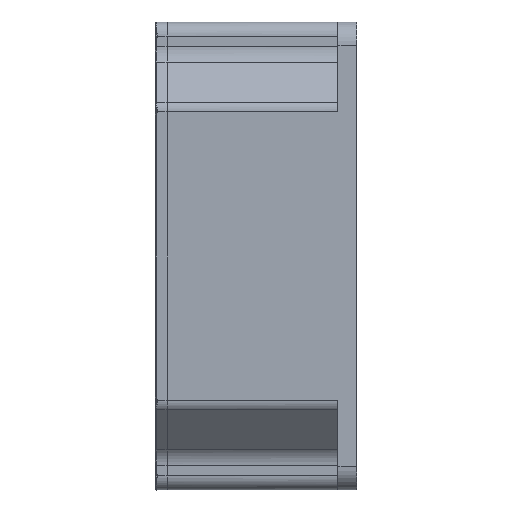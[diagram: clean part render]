
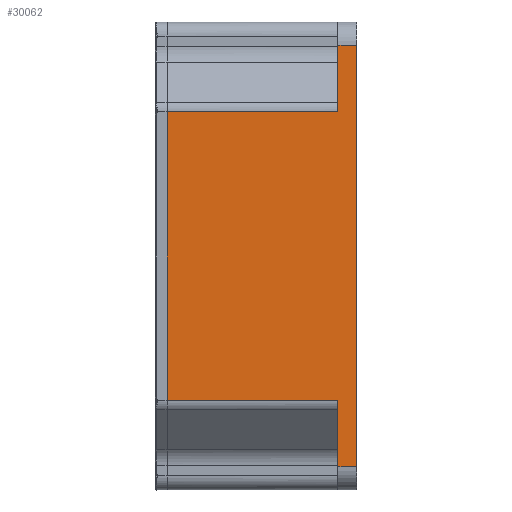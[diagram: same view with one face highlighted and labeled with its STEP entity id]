
A CAD part, left-side view. The second image highlights one B-rep face of the part: STEP entity #30062.
In plain terms, the highlighted planar face has unit normal (-1, 0, 0).
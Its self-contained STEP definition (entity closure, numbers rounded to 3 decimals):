
#1605 = LINE ( 'NONE', #1606, #25439 ) ;
#1606 = CARTESIAN_POINT ( 'NONE',  ( -58.5, -40.5, 45. ) ) ;
#1607 = DIRECTION ( 'NONE',  ( 0., 1., 0. ) ) ;
#1608 = LINE ( 'NONE', #1609, #25436 ) ;
#1609 = CARTESIAN_POINT ( 'NONE',  ( -58.5, -40.5, -50. ) ) ;
#3073 = LINE ( 'NONE', #3077, #26999 ) ;
#3077 = CARTESIAN_POINT ( 'NONE',  ( -58.5, 0., 50. ) ) ;
#3079 = DIRECTION ( 'NONE',  ( 0., 0., -1. ) ) ;
#5118 = VERTEX_POINT ( 'NONE', #18743 ) ;
#5119 = VERTEX_POINT ( 'NONE', #18746 ) ;
#8913 = EDGE_CURVE ( 'NONE', #18975, #18980, #3073, .T. ) ;
#9078 = EDGE_CURVE ( 'NONE', #19001, #18985, #11575, .T. ) ;
#9092 = EDGE_CURVE ( 'NONE', #18985, #18975, #11727, .T. ) ;
#9100 = EDGE_CURVE ( 'NONE', #18980, #18988, #11748, .T. ) ;
#9108 = EDGE_CURVE ( 'NONE', #18988, #18973, #11769, .T. ) ;
#9505 = AXIS2_PLACEMENT_3D ( 'NONE', #15084, #15105, #15107 ) ;
#11575 = LINE ( 'NONE', #11579, #26884 ) ;
#11579 = CARTESIAN_POINT ( 'NONE',  ( -58.5, -36.5, 50. ) ) ;
#11582 = DIRECTION ( 'NONE',  ( 0., 0., -1. ) ) ;
#11727 = LINE ( 'NONE', #11728, #26892 ) ;
#11728 = CARTESIAN_POINT ( 'NONE',  ( -58.5, -40.5, 30.838 ) ) ;
#11729 = DIRECTION ( 'NONE',  ( 0., 1., 0. ) ) ;
#11748 = LINE ( 'NONE', #11750, #26878 ) ;
#11750 = CARTESIAN_POINT ( 'NONE',  ( -58.5, -40.5, -30.838 ) ) ;
#11751 = DIRECTION ( 'NONE',  ( 0., -1., 0. ) ) ;
#11769 = LINE ( 'NONE', #11771, #26874 ) ;
#11771 = CARTESIAN_POINT ( 'NONE',  ( -58.5, -36.5, 50. ) ) ;
#11772 = DIRECTION ( 'NONE',  ( 0., 0., -1. ) ) ;
#15084 = CARTESIAN_POINT ( 'NONE',  ( -58.5, -40.5, 50. ) ) ;
#15099 = FACE_OUTER_BOUND ( 'NONE', #16044, .T. ) ;
#15101 = PLANE ( 'NONE',  #9505 ) ;
#15105 = DIRECTION ( 'NONE',  ( -1., 0., 0. ) ) ;
#15107 = DIRECTION ( 'NONE',  ( 0., 0., 1. ) ) ;
#15808 = EDGE_CURVE ( 'NONE', #5118, #19001, #1605, .T. ) ;
#15812 = EDGE_CURVE ( 'NONE', #5119, #18973, #19676, .T. ) ;
#15814 = EDGE_CURVE ( 'NONE', #5118, #5119, #1608, .T. ) ;
#16044 = EDGE_LOOP ( 'NONE', ( #23310, #23311, #23312, #23313, #23314, #23315, #23316, #23317 ) ) ;
#18743 = CARTESIAN_POINT ( 'NONE',  ( -58.5, -40.5, 45. ) ) ;
#18746 = CARTESIAN_POINT ( 'NONE',  ( -58.5, -40.5, -45. ) ) ;
#18973 = VERTEX_POINT ( 'NONE', #20770 ) ;
#18975 = VERTEX_POINT ( 'NONE', #20772 ) ;
#18980 = VERTEX_POINT ( 'NONE', #20776 ) ;
#18985 = VERTEX_POINT ( 'NONE', #20780 ) ;
#18988 = VERTEX_POINT ( 'NONE', #20782 ) ;
#19001 = VERTEX_POINT ( 'NONE', #20792 ) ;
#19660 = CARTESIAN_POINT ( 'NONE',  ( -58.5, -40.5, -45. ) ) ;
#19676 = LINE ( 'NONE', #19660, #25438 ) ;
#19689 = DIRECTION ( 'NONE',  ( 0., 1., 0. ) ) ;
#19709 = DIRECTION ( 'NONE',  ( 0., 0., -1. ) ) ;
#20770 = CARTESIAN_POINT ( 'NONE',  ( -58.5, -36.5, -45. ) ) ;
#20772 = CARTESIAN_POINT ( 'NONE',  ( -58.5, 0., 30.838 ) ) ;
#20776 = CARTESIAN_POINT ( 'NONE',  ( -58.5, 0., -30.838 ) ) ;
#20780 = CARTESIAN_POINT ( 'NONE',  ( -58.5, -36.5, 30.838 ) ) ;
#20782 = CARTESIAN_POINT ( 'NONE',  ( -58.5, -36.5, -30.838 ) ) ;
#20792 = CARTESIAN_POINT ( 'NONE',  ( -58.5, -36.5, 45. ) ) ;
#23310 = ORIENTED_EDGE ( 'NONE', *, *, #9108, .T. ) ;
#23311 = ORIENTED_EDGE ( 'NONE', *, *, #15812, .F. ) ;
#23312 = ORIENTED_EDGE ( 'NONE', *, *, #15814, .F. ) ;
#23313 = ORIENTED_EDGE ( 'NONE', *, *, #15808, .T. ) ;
#23314 = ORIENTED_EDGE ( 'NONE', *, *, #9078, .T. ) ;
#23315 = ORIENTED_EDGE ( 'NONE', *, *, #9092, .T. ) ;
#23316 = ORIENTED_EDGE ( 'NONE', *, *, #8913, .T. ) ;
#23317 = ORIENTED_EDGE ( 'NONE', *, *, #9100, .T. ) ;
#25436 = VECTOR ( 'NONE', #19709, 1000. ) ;
#25438 = VECTOR ( 'NONE', #19689, 1000. ) ;
#25439 = VECTOR ( 'NONE', #1607, 1000. ) ;
#26874 = VECTOR ( 'NONE', #11772, 1000. ) ;
#26878 = VECTOR ( 'NONE', #11751, 1000. ) ;
#26884 = VECTOR ( 'NONE', #11582, 1000. ) ;
#26892 = VECTOR ( 'NONE', #11729, 1000. ) ;
#26999 = VECTOR ( 'NONE', #3079, 1000. ) ;
#30062 = ADVANCED_FACE ( 'NONE', ( #15099 ), #15101, .T. ) ;
